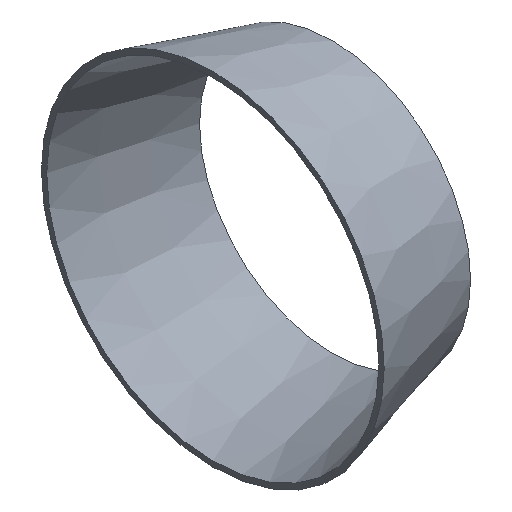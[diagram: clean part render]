
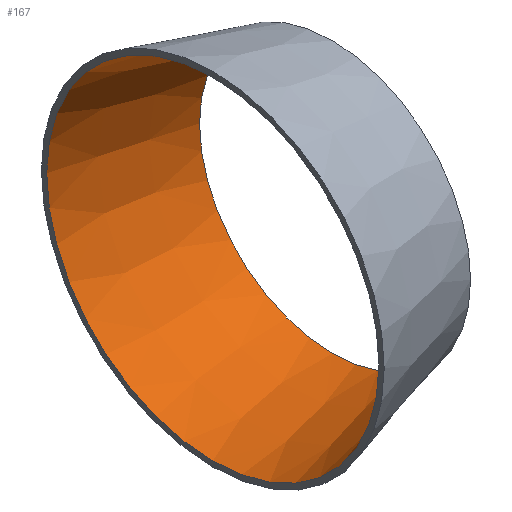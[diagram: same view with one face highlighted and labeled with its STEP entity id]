
A CAD part, isometric view. The second image highlights one B-rep face of the part: STEP entity #167.
In plain terms, the highlighted conical face has half-angle 15.524 degrees and reference radius 62.5 mm.
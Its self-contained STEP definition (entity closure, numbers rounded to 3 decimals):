
#43 = PLANE('',#44);
#44 = AXIS2_PLACEMENT_3D('',#45,#46,#47);
#45 = CARTESIAN_POINT('',(0.,0.,0.));
#46 = DIRECTION('',(1.,0.,0.));
#47 = DIRECTION('',(0.,1.,0.));
#90 = PLANE('',#91);
#91 = AXIS2_PLACEMENT_3D('',#92,#93,#94);
#92 = CARTESIAN_POINT('',(45.,0.,0.));
#93 = DIRECTION('',(1.,0.,0.));
#94 = DIRECTION('',(0.,1.,0.));
#109 = EDGE_CURVE('',#110,#110,#112,.T.);
#110 = VERTEX_POINT('',#111);
#111 = CARTESIAN_POINT('',(0.,62.5,0.));
#112 = SURFACE_CURVE('',#113,(#118,#125),.PCURVE_S1.);
#113 = CIRCLE('',#114,62.5);
#114 = AXIS2_PLACEMENT_3D('',#115,#116,#117);
#115 = CARTESIAN_POINT('',(0.,0.,0.));
#116 = DIRECTION('',(1.,0.,0.));
#117 = DIRECTION('',(0.,1.,0.));
#118 = PCURVE('',#43,#119);
#119 = DEFINITIONAL_REPRESENTATION('',(#120),#124);
#120 = CIRCLE('',#121,62.5);
#121 = AXIS2_PLACEMENT_2D('',#122,#123);
#122 = CARTESIAN_POINT('',(0.,0.));
#123 = DIRECTION('',(1.,0.));
#124 = ( GEOMETRIC_REPRESENTATION_CONTEXT(2) 
PARAMETRIC_REPRESENTATION_CONTEXT() REPRESENTATION_CONTEXT('2D SPACE',''
  ) );
#125 = PCURVE('',#126,#131);
#126 = CONICAL_SURFACE('',#127,62.5,0.271);
#127 = AXIS2_PLACEMENT_3D('',#128,#129,#130);
#128 = CARTESIAN_POINT('',(0.,0.,0.));
#129 = DIRECTION('',(-1.,-0.,-0.));
#130 = DIRECTION('',(0.,1.,0.));
#131 = DEFINITIONAL_REPRESENTATION('',(#132),#136);
#132 = LINE('',#133,#134);
#133 = CARTESIAN_POINT('',(-0.,-0.));
#134 = VECTOR('',#135,1.);
#135 = DIRECTION('',(-1.,-0.));
#136 = ( GEOMETRIC_REPRESENTATION_CONTEXT(2) 
PARAMETRIC_REPRESENTATION_CONTEXT() REPRESENTATION_CONTEXT('2D SPACE',''
  ) );
#144 = EDGE_CURVE('',#145,#145,#147,.T.);
#145 = VERTEX_POINT('',#146);
#146 = CARTESIAN_POINT('',(45.,50.,0.));
#147 = SURFACE_CURVE('',#148,(#153,#160),.PCURVE_S1.);
#148 = CIRCLE('',#149,50.);
#149 = AXIS2_PLACEMENT_3D('',#150,#151,#152);
#150 = CARTESIAN_POINT('',(45.,0.,0.));
#151 = DIRECTION('',(1.,0.,0.));
#152 = DIRECTION('',(0.,1.,0.));
#153 = PCURVE('',#90,#154);
#154 = DEFINITIONAL_REPRESENTATION('',(#155),#159);
#155 = CIRCLE('',#156,50.);
#156 = AXIS2_PLACEMENT_2D('',#157,#158);
#157 = CARTESIAN_POINT('',(0.,0.));
#158 = DIRECTION('',(1.,0.));
#159 = ( GEOMETRIC_REPRESENTATION_CONTEXT(2) 
PARAMETRIC_REPRESENTATION_CONTEXT() REPRESENTATION_CONTEXT('2D SPACE',''
  ) );
#160 = PCURVE('',#126,#161);
#161 = DEFINITIONAL_REPRESENTATION('',(#162),#166);
#162 = LINE('',#163,#164);
#163 = CARTESIAN_POINT('',(-0.,-45.));
#164 = VECTOR('',#165,1.);
#165 = DIRECTION('',(-1.,-0.));
#166 = ( GEOMETRIC_REPRESENTATION_CONTEXT(2) 
PARAMETRIC_REPRESENTATION_CONTEXT() REPRESENTATION_CONTEXT('2D SPACE',''
  ) );
#167 = ADVANCED_FACE('',(#168),#126,.F.);
#168 = FACE_BOUND('',#169,.F.);
#169 = EDGE_LOOP('',(#170,#188,#189,#190));
#170 = ORIENTED_EDGE('',*,*,#171,.F.);
#171 = EDGE_CURVE('',#110,#145,#172,.T.);
#172 = SEAM_CURVE('',#173,(#176,#182),.PCURVE_S1.);
#173 = B_SPLINE_CURVE_WITH_KNOTS('',1,(#174,#175),.UNSPECIFIED.,.F.,.F.,
  (2,2),(0.,1.),.PIECEWISE_BEZIER_KNOTS.);
#174 = CARTESIAN_POINT('',(0.,62.5,0.));
#175 = CARTESIAN_POINT('',(45.,50.,0.));
#176 = PCURVE('',#126,#177);
#177 = DEFINITIONAL_REPRESENTATION('',(#178),#181);
#178 = B_SPLINE_CURVE_WITH_KNOTS('',1,(#179,#180),.UNSPECIFIED.,.F.,.F.,
  (2,2),(0.,1.),.PIECEWISE_BEZIER_KNOTS.);
#179 = CARTESIAN_POINT('',(0.,0.));
#180 = CARTESIAN_POINT('',(0.,-45.));
#181 = ( GEOMETRIC_REPRESENTATION_CONTEXT(2) 
PARAMETRIC_REPRESENTATION_CONTEXT() REPRESENTATION_CONTEXT('2D SPACE',''
  ) );
#182 = PCURVE('',#126,#183);
#183 = DEFINITIONAL_REPRESENTATION('',(#184),#187);
#184 = B_SPLINE_CURVE_WITH_KNOTS('',1,(#185,#186),.UNSPECIFIED.,.F.,.F.,
  (2,2),(0.,1.),.PIECEWISE_BEZIER_KNOTS.);
#185 = CARTESIAN_POINT('',(-6.283,0.));
#186 = CARTESIAN_POINT('',(-6.283,-45.));
#187 = ( GEOMETRIC_REPRESENTATION_CONTEXT(2) 
PARAMETRIC_REPRESENTATION_CONTEXT() REPRESENTATION_CONTEXT('2D SPACE',''
  ) );
#188 = ORIENTED_EDGE('',*,*,#109,.T.);
#189 = ORIENTED_EDGE('',*,*,#171,.T.);
#190 = ORIENTED_EDGE('',*,*,#144,.F.);
